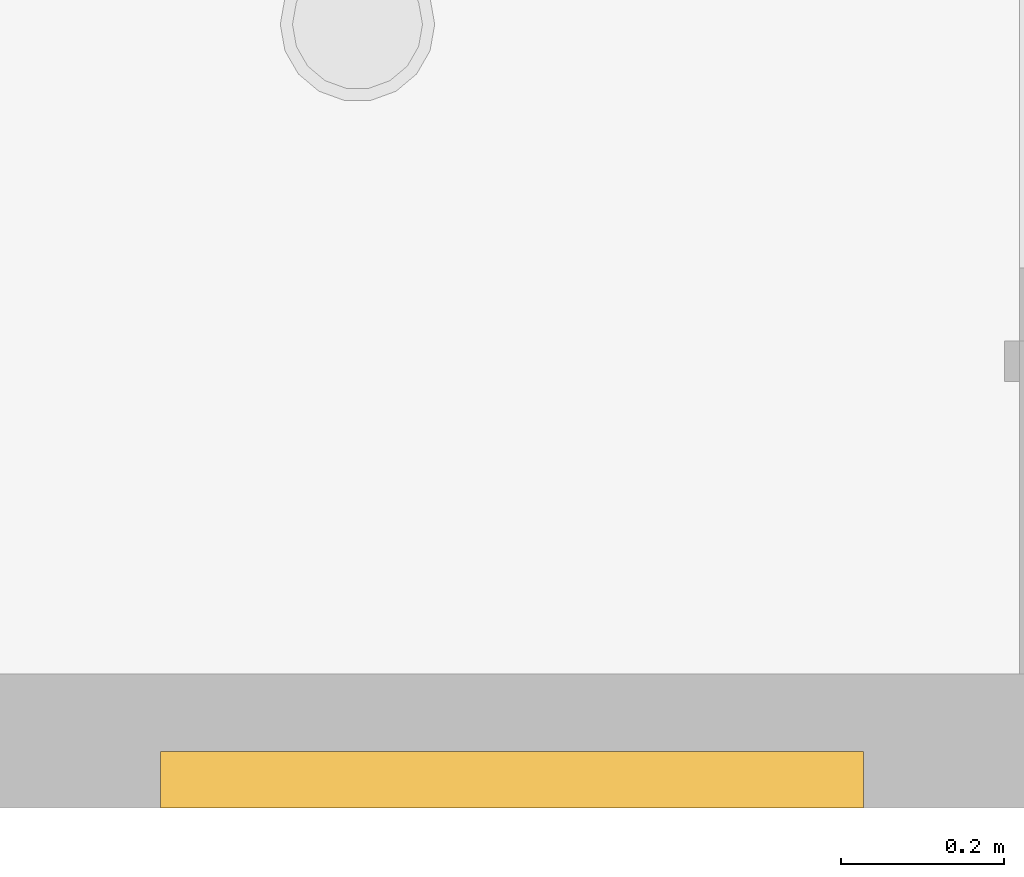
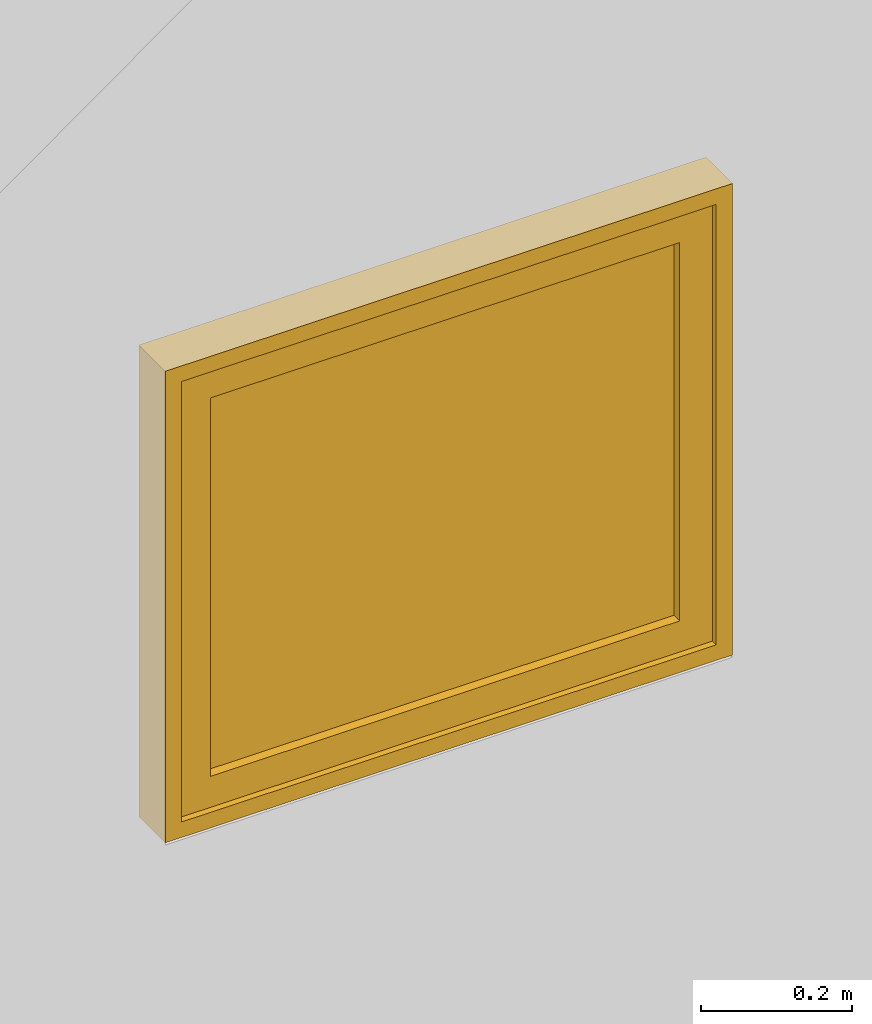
# One storey, part 40 of 77: 1 window.
"""IFC2X3 building model written with IfcOpenShell, lengths in inches."""

from ifc_helpers import new_model, entity, si_unit, converted_unit, derived_unit, money_unit, direction, frame, origin_with_axes, place, context, subcontext, project, spatial, open_shell, faceted_brep, surface_model, type_object, element, save


model = new_model("IFC2X3")

# Units and contexts
model_context = context("Model", 3, precision=0.000393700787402, world=origin_with_axes(), true_north=direction((0.0, 1.0)))
body_context = subcontext(model_context, "Body", "Model", "MODEL_VIEW")
ifc_project = project(units=[converted_unit("LENGTHUNIT", "INCH", entity("IfcPositiveLengthMeasure", 0.0254), si_unit("LENGTHUNIT", "METRE"), dimensions=[1, 0, 0, 0, 0, 0, 0]), converted_unit("AREAUNIT", "SQUARE_FOOT", entity("IfcPositiveLengthMeasure", 0.09290304), si_unit("AREAUNIT", "SQUARE_METRE"), dimensions=[2, 0, 0, 0, 0, 0, 0]), si_unit("PLANEANGLEUNIT", "RADIAN"), si_unit("SOLIDANGLEUNIT", "STERADIAN"), money_unit("USD"), converted_unit("TIMEUNIT", "Year", entity("IfcTimeMeasure", 31556926.0), si_unit("TIMEUNIT", "SECOND"), dimensions=[0, 0, 1, 0, 0, 0, 0]), si_unit("MASSUNIT", "GRAM", prefix="KILO"), si_unit("THERMODYNAMICTEMPERATUREUNIT", "DEGREE_CELSIUS"), si_unit("LUMINOUSINTENSITYUNIT", "LUMEN"), si_unit("ENERGYUNIT", "JOULE", prefix="MEGA"), derived_unit("THERMALCONDUCTANCEUNIT", [(si_unit("POWERUNIT", "WATT"), 1), (si_unit("LENGTHUNIT", "METRE"), -1), (si_unit("THERMODYNAMICTEMPERATUREUNIT", "KELVIN"), -1)]), derived_unit("SPECIFICHEATCAPACITYUNIT", [(si_unit("ENERGYUNIT", "JOULE"), 1), (si_unit("MASSUNIT", "GRAM", prefix="KILO"), -1), (si_unit("THERMODYNAMICTEMPERATUREUNIT", "KELVIN"), -1)]), derived_unit("MASSDENSITYUNIT", [(si_unit("MASSUNIT", "GRAM", prefix="KILO"), 1), (si_unit("VOLUMEUNIT", "CUBIC_METRE"), -1)])], contexts=[model_context])

# Site, building, storey
site_placement = place(None, origin_with_axes())
site = spatial("IfcSite", under=ifc_project, at=site_placement, Name="Site", CompositionType="ELEMENT")
building_placement = place(site_placement, origin_with_axes())
building = spatial("IfcBuilding", under=site, at=building_placement, Name="Building", CompositionType="ELEMENT")
storey_placement = place(building_placement, frame((0.0, 0.0, 127.952755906), z_axis=(0.0, 0.0, 1.0), x_axis=(1.0, 0.0, 0.0)))
storey = spatial("IfcBuildingStorey", under=building, at=storey_placement, Name="Second Floor", CompositionType="ELEMENT", Elevation=127.953)

# Window
window_style = type_object("IfcWindowStyle", Name="Window 25", ConstructionType="NOTDEFINED", OperationType="SINGLE_PANEL", ParameterTakesPrecedence=False, Sizeable=False)
window_placement = place(storey_placement, frame((998.017202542, 19.4071723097, 64.1732283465), z_axis=(0.0, 0.0, 1.0), x_axis=(-1.0, 0.0, 0.0)))
element("IfcWindow", 1, at=window_placement, inside=storey, type_object=window_style, Name="W-14", OverallHeight=29.9213, OverallWidth=34.0551, context=body_context, shape_type="SurfaceModel", body=[
    faceted_brep([(33.0708661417, 6.5, 27.9527559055), (33.0708661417, 4.13779527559, 27.9527559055), (32.0866141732, 4.13779527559, 27.9527559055), (32.0866141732, 3.74409448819, 27.9527559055), (34.0551181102, 3.74409448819, 27.9527559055), (34.0551181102, 6.5, 27.9527559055), (33.0708661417, 6.5, 1.96850393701), (33.0708661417, 4.13779527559, 1.96850393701), (32.0866141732, 4.13779527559, 1.96850393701), (32.0866141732, 3.74409448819, 1.96850393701), (34.0551181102, 3.74409448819, 1.96850393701), (34.0551181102, 6.5, 1.96850393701)], [[[0, 1, 2, 3, 4, 5]], [[1, 0, 6, 7]], [[8, 2, 1, 7]], [[2, 8, 9, 3]], [[4, 3, 9, 10]], [[5, 4, 10, 11]], [[6, 0, 5, 11]], [[7, 6, 11, 10, 9, 8]]]),
    faceted_brep([(1.96850393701, 4.13779527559, 27.9527559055), (0.984251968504, 4.13779527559, 27.9527559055), (0.984251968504, 6.5, 27.9527559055), (0.0, 6.5, 27.9527559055), (0.0, 3.74409448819, 27.9527559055), (1.96850393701, 3.74409448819, 27.9527559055), (1.96850393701, 4.13779527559, 1.96850393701), (0.984251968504, 4.13779527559, 1.96850393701), (0.984251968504, 6.5, 1.96850393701), (0.0, 6.5, 1.96850393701), (0.0, 3.74409448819, 1.96850393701), (1.96850393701, 3.74409448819, 1.96850393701)], [[[0, 1, 2, 3, 4, 5]], [[1, 0, 6, 7]], [[8, 2, 1, 7]], [[2, 8, 9, 3]], [[9, 10, 4, 3]], [[10, 11, 5, 4]], [[6, 0, 5, 11]], [[7, 6, 11, 10, 9, 8]]]),
    faceted_brep([(1.96850393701, 4.13779527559, 1.96850393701), (0.984251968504, 4.13779527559, 1.96850393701), (0.984251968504, 6.5, 1.96850393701), (0.0, 6.5, 1.96850393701), (0.0, 3.74409448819, 1.96850393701), (1.96850393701, 3.74409448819, 1.96850393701), (32.0866141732, 4.13779527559, 1.96850393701), (33.0708661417, 4.13779527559, 1.96850393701), (33.0708661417, 4.13779527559, 0.984251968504), (0.984251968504, 4.13779527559, 0.984251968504), (0.984251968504, 6.5, 0.984251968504), (33.0708661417, 6.5, 0.984251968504), (33.0708661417, 6.5, 1.96850393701), (34.0551181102, 6.5, 1.96850393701), (34.0551181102, 6.5, 0.0), (0.0, 6.5, 0.0), (0.0, 3.74409448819, 0.0), (34.0551181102, 3.74409448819, 1.96850393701), (32.0866141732, 3.74409448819, 1.96850393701), (34.0551181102, 3.74409448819, 0.0)], [[[0, 1, 2, 3, 4, 5]], [[1, 0, 6, 7, 8, 9]], [[10, 2, 1, 9]], [[11, 12, 13, 14, 15, 3, 2, 10]], [[15, 16, 4, 3]], [[17, 18, 5, 4, 16, 19]], [[6, 0, 5, 18]], [[7, 6, 18, 17, 13, 12]], [[7, 12, 11, 8]], [[11, 10, 9, 8]], [[13, 17, 19, 14]], [[14, 19, 16, 15]]]),
    faceted_brep([(33.0708661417, 6.5, 27.9527559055), (33.0708661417, 6.5, 28.937007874), (0.984251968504, 6.5, 28.937007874), (0.984251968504, 6.5, 27.9527559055), (0.0, 6.5, 27.9527559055), (0.0, 6.5, 29.9212598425), (34.0551181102, 6.5, 29.9212598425), (34.0551181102, 6.5, 27.9527559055), (33.0708661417, 4.13779527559, 27.9527559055), (33.0708661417, 4.13779527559, 28.937007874), (0.984251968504, 4.13779527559, 28.937007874), (0.984251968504, 4.13779527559, 27.9527559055), (1.96850393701, 4.13779527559, 27.9527559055), (1.96850393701, 3.74409448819, 27.9527559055), (0.0, 3.74409448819, 27.9527559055), (0.0, 3.74409448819, 29.9212598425), (34.0551181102, 3.74409448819, 29.9212598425), (34.0551181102, 3.74409448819, 27.9527559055), (32.0866141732, 3.74409448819, 27.9527559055), (32.0866141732, 4.13779527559, 27.9527559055)], [[[0, 1, 2, 3, 4, 5, 6, 7]], [[1, 0, 8, 9]], [[2, 1, 9, 10]], [[3, 2, 10, 11]], [[11, 12, 13, 14, 4, 3]], [[4, 14, 15, 5]], [[5, 15, 16, 6]], [[6, 16, 17, 7]], [[8, 0, 7, 17, 18, 19]], [[12, 11, 10, 9, 8, 19]], [[12, 19, 18, 13]], [[14, 13, 18, 17, 16, 15]]]),
    faceted_brep([(31.1023622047, 4.13779527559, 26.968503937), (33.0708661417, 4.13779527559, 26.968503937), (33.0708661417, 6.1062992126, 26.968503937), (31.1023622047, 6.1062992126, 26.968503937), (31.1023622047, 4.13779527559, 2.95275590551), (33.0708661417, 4.13779527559, 2.95275590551), (33.0708661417, 6.1062992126, 2.95275590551), (31.1023622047, 6.1062992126, 2.95275590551)], [[[0, 1, 2, 3]], [[0, 4, 5, 1]], [[1, 5, 6, 2]], [[3, 2, 6, 7]], [[4, 0, 3, 7]], [[5, 4, 7, 6]]]),
    faceted_brep([(2.95275590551, 4.13779527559, 2.95275590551), (0.984251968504, 4.13779527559, 2.95275590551), (0.984251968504, 6.1062992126, 2.95275590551), (2.95275590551, 6.1062992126, 2.95275590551), (2.95275590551, 4.13779527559, 26.968503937), (0.984251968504, 4.13779527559, 26.968503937), (0.984251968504, 6.1062992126, 26.968503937), (2.95275590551, 6.1062992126, 26.968503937)], [[[0, 1, 2, 3]], [[0, 4, 5, 1]], [[1, 5, 6, 2]], [[3, 2, 6, 7]], [[4, 0, 3, 7]], [[5, 4, 7, 6]]]),
    faceted_brep([(0.984251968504, 4.13779527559, 0.984251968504), (0.984251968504, 4.13779527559, 2.95275590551), (0.984251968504, 6.1062992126, 2.95275590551), (0.984251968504, 6.1062992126, 0.984251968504), (33.0708661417, 4.13779527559, 0.984251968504), (33.0708661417, 4.13779527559, 2.95275590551), (31.1023622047, 4.13779527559, 2.95275590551), (2.95275590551, 4.13779527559, 2.95275590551), (2.95275590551, 6.1062992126, 2.95275590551), (31.1023622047, 6.1062992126, 2.95275590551), (33.0708661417, 6.1062992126, 2.95275590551), (33.0708661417, 6.1062992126, 0.984251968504)], [[[0, 1, 2, 3]], [[0, 4, 5, 6, 7, 1]], [[1, 7, 8, 2]], [[3, 2, 8, 9, 10, 11]], [[4, 0, 3, 11]], [[5, 4, 11, 10]], [[6, 5, 10, 9]], [[7, 6, 9, 8]]]),
    faceted_brep([(33.0708661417, 4.13779527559, 28.937007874), (33.0708661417, 4.13779527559, 26.968503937), (33.0708661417, 6.1062992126, 26.968503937), (33.0708661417, 6.1062992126, 28.937007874), (0.984251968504, 4.13779527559, 28.937007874), (0.984251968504, 4.13779527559, 26.968503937), (2.95275590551, 4.13779527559, 26.968503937), (31.1023622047, 4.13779527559, 26.968503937), (31.1023622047, 6.1062992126, 26.968503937), (2.95275590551, 6.1062992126, 26.968503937), (0.984251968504, 6.1062992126, 26.968503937), (0.984251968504, 6.1062992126, 28.937007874)], [[[0, 1, 2, 3]], [[0, 4, 5, 6, 7, 1]], [[1, 7, 8, 2]], [[3, 2, 8, 9, 10, 11]], [[4, 0, 3, 11]], [[5, 4, 11, 10]], [[6, 5, 10, 9]], [[7, 6, 9, 8]]]),
    surface_model("IfcShellBasedSurfaceModel", [(31.1023622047, 4.72834645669, 2.95275590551), (31.1023622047, 4.72834645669, 26.968503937), (2.95275590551, 4.72834645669, 26.968503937), (2.95275590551, 4.72834645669, 2.95275590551)], [open_shell([[[0, 1, 2, 3]]])]),
    surface_model("IfcShellBasedSurfaceModel", [(31.1023622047, 5.5157480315, 2.95275590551), (2.95275590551, 5.5157480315, 2.95275590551), (2.95275590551, 5.5157480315, 26.968503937), (31.1023622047, 5.5157480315, 26.968503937)], [open_shell([[[0, 1, 2, 3]]])]),
])

save(model, "model.ifc")
